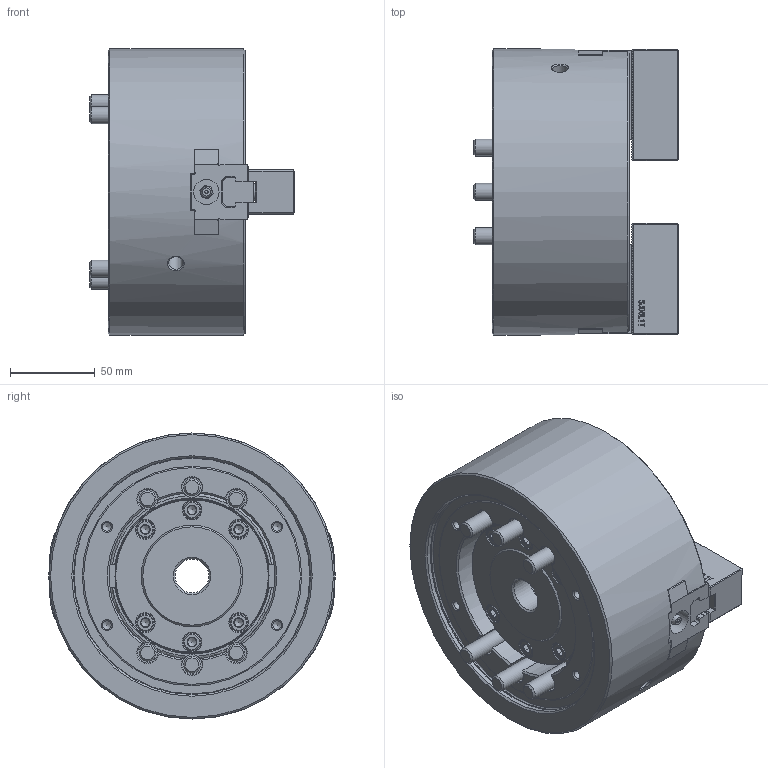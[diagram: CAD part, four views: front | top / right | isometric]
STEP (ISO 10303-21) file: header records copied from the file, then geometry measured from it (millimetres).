
FILE_DESCRIPTION (( 'STEP AP214' ), '1' );
FILE_NAME ('DT1_BT206_OUTSIDE_VIEW_HUL.STEP', '2024-05-09T00:07:10', ( '' ), ( '' ), 'SwSTEP 2.0', 'SolidWorks 2022', '' );
FILE_SCHEMA (( 'AUTOMOTIVE_DESIGN' ));
Length unit declared in the file: millimetre
Products named in the file (9): DT1_BT206_M10x80^DT1-BT206_ﾃﾞﾌｫﾙﾄ; DT1_BT206_COVER^DT1-BT206_ﾃﾞﾌｫﾙﾄ; DT1_BT206_OUTSIDE_VIEW_HUL; DT1_BT206_TNUT^DT1-BT206_ﾃﾞﾌｫﾙﾄ; DT1_BT206_M10x25^DT1-BT206_ﾃﾞﾌｫﾙﾄ; DT1_BT206_DRAWNUT^DT1-BT206_ﾃﾞﾌｫﾙﾄ; DT1_BT206_SOFTJAW^DT1-BT206_ﾃﾞﾌｫﾙﾄ; DT1_BT206_M5x10^DT1-BT206_ﾃﾞﾌｫﾙﾄ; DT1_BT206_BASE^DT1-BT206_ﾃﾞﾌｫﾙﾄ
Assembly tree (21 placements, depth 2):
  DT1_BT206_OUTSIDE_VIEW_HUL
    DT1_BT206_SOFTJAW^DT1-BT206_ﾃﾞﾌｫﾙﾄ  x2
    DT1_BT206_TNUT^DT1-BT206_ﾃﾞﾌｫﾙﾄ  x2
    DT1_BT206_DRAWNUT^DT1-BT206_ﾃﾞﾌｫﾙﾄ
    DT1_BT206_COVER^DT1-BT206_ﾃﾞﾌｫﾙﾄ
    DT1_BT206_BASE^DT1-BT206_ﾃﾞﾌｫﾙﾄ
    DT1_BT206_M5x10^DT1-BT206_ﾃﾞﾌｫﾙﾄ  x4
    DT1_BT206_M10x25^DT1-BT206_ﾃﾞﾌｫﾙﾄ  x4
    DT1_BT206_M10x80^DT1-BT206_ﾃﾞﾌｫﾙﾄ  x6
Bounding box: 121 x 169 x 169 mm (x, y, z)
Volume: 1629901.2 mm3; surface area: 234535.8 mm2
Topology: 21 solids, 29 shells, 2724 faces, 7508 edges, 4936 vertices
Faces by surface type: plane 1867, cylinder 328, bspline 271, cone 231, torus 25, sphere 2
Full cylindrical faces by diameter (mm): 2 x2, 4.2 x4, 5 x8, 5.5 x4, 8.5 x2, 8.6 x4, 9.5 x4, 10 x14, 10.22 x6, 11 x10, 12 x6, 15 x2, 16.27 x10, 17 x10, 20 x1, 45 x1, 48 x2, 55.5 x1, 57.8 x2, 60 x2, 65.5 x2, 90.7 x1, 91 x1, 140 x1, 140.8 x1, 169 x1
Entity records: 74859 total; most frequent: CARTESIAN_POINT 23721, ORIENTED_EDGE 11336, DIRECTION 8934, EDGE_CURVE 5668, VECTOR 3992, LINE 3992, VERTEX_POINT 3816, AXIS2_PLACEMENT_3D 2471
